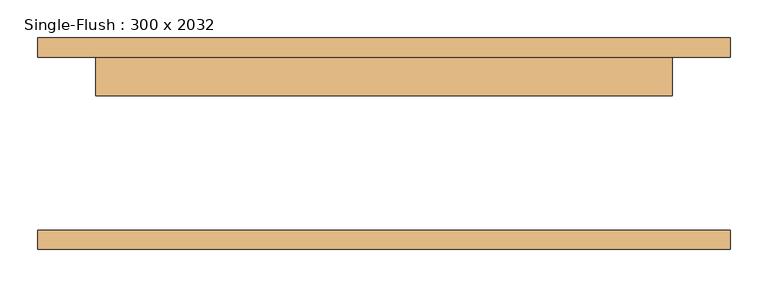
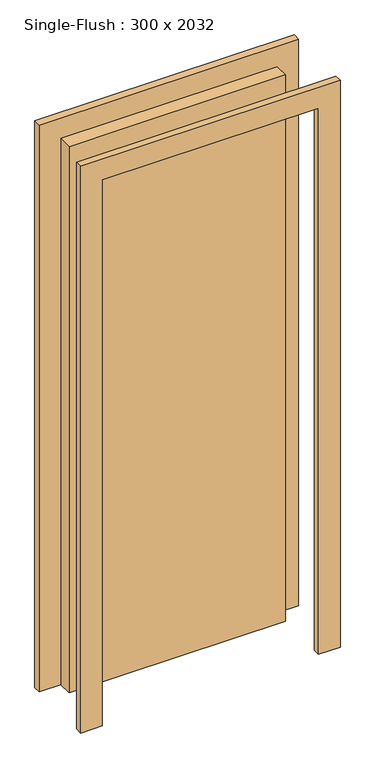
"""IFC4 building model written with IfcOpenShell, lengths in millimetres: door geometry, Single-Flush : 300 x 2032."""

import ifcopenshell
import ifcopenshell.guid

model = None  # the IFC model being written
_history = None  # IfcOwnerHistory: only IFC2X3 demands one
_inside = {}  # id of a spatial element -> (the spatial element, [elements in it])
_under = {}  # id of a project, library or spatial element -> (it, [spatial elements below it])
_declared = {}  # id of a project -> (the project, [libraries it declares])
_typed = {}  # id of a type object -> (the type object, [elements of that type])
_made_of = {}  # id of a material, layer set ... -> (it, [elements and type objects made of it])


def new_model(schema):
    """Start an empty IFC model of exactly this schema.

    Asked for "IFC4X3", IfcOpenShell would pick the latest addendum, in which some entities
    have other attributes; the version numbers below select the first issue.
    IFC2X3 requires an IfcOwnerHistory on every rooted entity: one is made here for all.
    """
    global model, _history
    if schema == "IFC4X3":
        model = ifcopenshell.file(schema_version=(4, 3, 0, 0))
    else:
        model = ifcopenshell.file(schema=schema)
    _inside.clear()
    _under.clear()
    _declared.clear()
    _typed.clear()
    _made_of.clear()
    _history = None
    if model.schema == "IFC2X3":
        org = make("IfcOrganization", Name="unknown")
        user = make(
            "IfcPersonAndOrganization",
            ThePerson=make("IfcPerson", FamilyName="unknown"),
            TheOrganization=org,
        )
        app = make(
            "IfcApplication",
            ApplicationDeveloper=org,
            Version="unknown",
            ApplicationFullName="unknown",
            ApplicationIdentifier="unknown",
        )
        _history = make(
            "IfcOwnerHistory",
            OwningUser=user,
            OwningApplication=app,
            ChangeAction="ADDED",
            CreationDate=0,
        )
    return model


def make(cls, **values):
    """One entity of the class cls with the attributes given. An attribute that is None is left unset."""
    return model.create_entity(
        cls, **{name: value for name, value in values.items() if value is not None}
    )


def rooted(cls, **values):
    """An entity with a GlobalId (a new one), such as an element, a storey or a relation."""
    return make(cls, GlobalId=ifcopenshell.guid.new(), OwnerHistory=_history, **values)


def si_unit(unit_type, name, prefix=None):
    """IfcSIUnit, for example si_unit("LENGTHUNIT", "METRE", prefix="MILLI")."""
    return make("IfcSIUnit", UnitType=unit_type, Prefix=prefix, Name=name)


def assignment(units):
    """IfcUnitAssignment: the units of a project."""
    return None if units is None else make("IfcUnitAssignment", Units=units)


def point(xyz):
    """IfcCartesianPoint."""
    return None if xyz is None else make("IfcCartesianPoint", Coordinates=xyz)


def direction(xyz):
    """IfcDirection."""
    return None if xyz is None else make("IfcDirection", DirectionRatios=xyz)


def frame(location, z_axis=None, x_axis=None):
    """IfcAxis2Placement3D, a coordinate frame: its origin and axes. An axis left out is left unset."""
    return make(
        "IfcAxis2Placement3D",
        Location=point(location),
        Axis=direction(z_axis),
        RefDirection=direction(x_axis),
    )


def origin():
    """The frame at (0, 0, 0) with its axes left unset."""
    return frame((0.0, 0.0, 0.0))


def origin_with_axes():
    """The frame at (0, 0, 0) with the z axis (0, 0, 1) and the x axis (1, 0, 0) written out."""
    return frame((0.0, 0.0, 0.0), z_axis=(0.0, 0.0, 1.0), x_axis=(1.0, 0.0, 0.0))


def place(relative_to, where):
    """IfcLocalPlacement: puts the frame where relative to a parent placement (None: the world)."""
    return make(
        "IfcLocalPlacement", PlacementRelTo=relative_to, RelativePlacement=where
    )


def context(
    kind, dimensions, precision=None, world=None, true_north=None, identifier=None
):
    """IfcGeometricRepresentationContext, for example the 3D "Model" context."""
    return make(
        "IfcGeometricRepresentationContext",
        ContextIdentifier=identifier,
        ContextType=kind,
        CoordinateSpaceDimension=dimensions,
        Precision=precision,
        WorldCoordinateSystem=world,
        TrueNorth=true_north,
    )


def project(units=None, contexts=None):
    """IfcProject with its units and contexts."""
    return rooted(
        "IfcProject",
        Name="project",
        RepresentationContexts=contexts,
        UnitsInContext=assignment(units),
    )


def spatial(cls, under=None, at=None, **own):
    """A site, building, storey or space (cls), placed at a placement, below another one or the project."""
    s = rooted(cls, ObjectPlacement=at, **own)
    if under is not None:
        _under.setdefault(under.id(), (under, []))[1].append(s)
    return s


def polyline(points):
    """IfcPolyline through the points."""
    return make("IfcPolyline", Points=[point(p) for p in points])


def outline(outer, holes=None, kind="AREA"):
    """IfcArbitraryClosedProfileDef: a profile drawn as a closed curve; with holes, ...WithVoids."""
    if holes is None:
        return make("IfcArbitraryClosedProfileDef", ProfileType=kind, OuterCurve=outer)
    return make(
        "IfcArbitraryProfileDefWithVoids",
        ProfileType=kind,
        OuterCurve=outer,
        InnerCurves=holes,
    )


def extrude(swept, where, along, depth):
    """IfcExtrudedAreaSolid: the profile swept, set in the frame where, extruded along a direction by depth."""
    return make(
        "IfcExtrudedAreaSolid",
        SweptArea=swept,
        Position=where,
        ExtrudedDirection=direction(along),
        Depth=depth,
    )


def shape(context_of_items, identifier, shape_type, items):
    """IfcShapeRepresentation: the items that make up one representation, for example the "Body"."""
    return make(
        "IfcShapeRepresentation",
        ContextOfItems=context_of_items,
        RepresentationIdentifier=identifier,
        RepresentationType=shape_type,
        Items=items,
    )


def source(mapping_origin, context_of_items, identifier, shape_type, items):
    """IfcRepresentationMap: a shape defined once, which mapped items show again and again."""
    return make(
        "IfcRepresentationMap",
        MappingOrigin=mapping_origin,
        MappedRepresentation=shape(context_of_items, identifier, shape_type, items),
    )


def transform(
    local_origin,
    x_axis=None,
    y_axis=None,
    z_axis=None,
    scale=None,
    scale2=None,
    scale3=None,
    uniform=True,
):
    """IfcCartesianTransformationOperator3D, or its non-uniform kind. x_axis, y_axis, z_axis: its Axis1, 2, 3."""
    if uniform:
        return make(
            "IfcCartesianTransformationOperator3D",
            Axis1=direction(x_axis),
            Axis2=direction(y_axis),
            LocalOrigin=point(local_origin),
            Scale=scale,
            Axis3=direction(z_axis),
        )
    return make(
        "IfcCartesianTransformationOperator3DnonUniform",
        Axis1=direction(x_axis),
        Axis2=direction(y_axis),
        LocalOrigin=point(local_origin),
        Scale=scale,
        Axis3=direction(z_axis),
        Scale2=scale2,
        Scale3=scale3,
    )


def mapped(mapping_source, mapping_target):
    """IfcMappedItem: shows the shape of a source again, moved by a transform."""
    return make(
        "IfcMappedItem", MappingSource=mapping_source, MappingTarget=mapping_target
    )


def made_of(thing, what):
    """Note that an element or type object is made of a material, layer set ...; save() writes the relation."""
    if what is not None:
        _made_of.setdefault(what.id(), (what, []))[1].append(thing)
    return thing


def element(
    cls,
    number,
    at=None,
    inside=None,
    cuts=None,
    type_object=None,
    material=None,
    context=None,
    identifier="Body",
    shape_type=None,
    held_by="IfcProductDefinitionShape",
    body=None,
    shapes=None,
    **own,
):
    """One element of the class cls, such as IfcWall. Its Tag is "e" and its number.

    at: its placement. inside: the storey or other place that contains it. cuts: it is an
    opening in that element (IfcRelVoidsElement). A single representation is given by context,
    identifier, shape_type and body (its items); several are given by shapes. held_by: the class
    of the entity that holds the representations. save() writes the other relations.
    """
    e = rooted(cls, Tag="e%d" % number, ObjectPlacement=at, **own)
    if body is not None:
        shapes = [shape(context, identifier, shape_type, body)]
    if shapes is not None:
        e.Representation = make(held_by, Representations=shapes)
    if inside is not None:
        _inside.setdefault(inside.id(), (inside, []))[1].append(e)
    if cuts is not None:
        rooted(
            "IfcRelVoidsElement", RelatingBuildingElement=cuts, RelatedOpeningElement=e
        )
    if type_object is not None:
        _typed.setdefault(type_object.id(), (type_object, []))[1].append(e)
    return made_of(e, material)


def aggregate(whole, parts):
    """IfcRelAggregates: a whole, such as a stair, and the parts it consists of."""
    return rooted("IfcRelAggregates", RelatingObject=whole, RelatedObjects=parts)


def save(model, path):
    """Write the relations noted so far, then the file.

    IfcRelAggregates (storeys below a building ...), IfcRelContainedInSpatialStructure (elements
    in a storey), IfcRelDefinesByType, IfcRelAssociatesMaterial and IfcRelDeclares: one each for
    every whole, place, type object, material and project.
    """
    for whole, parts in _under.values():
        aggregate(whole, parts)
    for where, things in _inside.values():
        rooted(
            "IfcRelContainedInSpatialStructure",
            RelatedElements=things,
            RelatingStructure=where,
        )
    for kind, things in _typed.values():
        rooted("IfcRelDefinesByType", RelatedObjects=things, RelatingType=kind)
    for what, things in _made_of.values():
        rooted("IfcRelAssociatesMaterial", RelatedObjects=things, RelatingMaterial=what)
    for by, libraries in _declared.values():
        rooted("IfcRelDeclares", RelatingContext=by, RelatedDefinitions=libraries)
    model.write(path)


def single_flush_300_x_2032_a1484949(model_context):
    return source(origin(), model_context, "Body", "SweptSolid", [
        extrude(outline(polyline([(2108.2, -457.2), (0.0, -457.2), (0.0, -381.0), (2032.0, -381.0), (2032.0, 381.0), (0.0, 381.0), (0.0, 457.2), (2108.2, 457.2), (2108.2, -457.2)])), frame((0.0, 114.3, 0.0), z_axis=(0.0, 1.0, 0.0), x_axis=(0.0, 0.0, 1.0)), (0.0, 0.0, 1.0), 25.4),
        extrude(outline(polyline([(2108.2, 457.2), (2108.2, -457.2), (0.0, -457.2), (0.0, -381.0), (2032.0, -381.0), (2032.0, 381.0), (0.0, 381.0), (0.0, 457.2), (2108.2, 457.2)])), frame((0.0, -139.7, 0.0), z_axis=(0.0, 1.0, 0.0), x_axis=(0.0, 0.0, 1.0)), (0.0, 0.0, 1.0), 25.4),
        extrude(outline(polyline([(381.0, 63.5), (-381.0, 63.5), (-381.0, 114.3), (381.0, 114.3), (381.0, 63.5)])), origin_with_axes(), (0.0, 0.0, 1.0), 2032.0),
    ])


if __name__ == "__main__":
    model = new_model("IFC4")
    model_context = context("Model", 3, world=origin())
    ifc_project = project(units=[si_unit("LENGTHUNIT", "METRE", prefix="MILLI")], contexts=[model_context])
    site = spatial("IfcSite", under=ifc_project)
    building = spatial("IfcBuilding", under=site)
    placement = place(None, origin())
    single_flush_300_x_2032_shape = single_flush_300_x_2032_a1484949(model_context)
    element("IfcDoor", 1, ObjectType="Single-Flush : 300 x 2032", at=placement, inside=building, context=model_context, shape_type="MappedRepresentation", body=[
        mapped(single_flush_300_x_2032_shape, transform((0.0, 0.0, 0.0), x_axis=(1.0, 0.0, 0.0), y_axis=(0.0, 1.0, 0.0), z_axis=(0.0, 0.0, 1.0))),
    ])
    save(model, "model.ifc")
